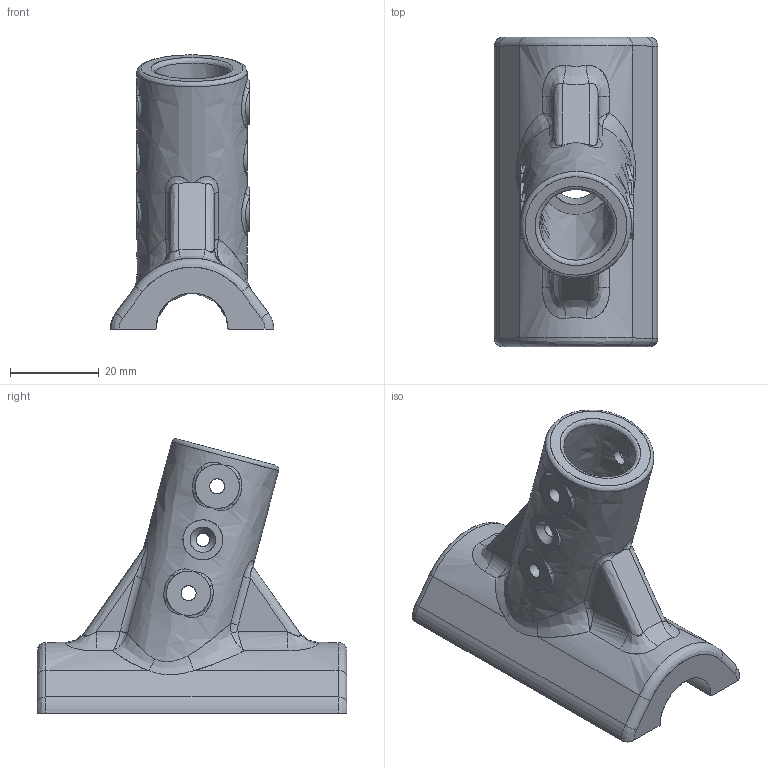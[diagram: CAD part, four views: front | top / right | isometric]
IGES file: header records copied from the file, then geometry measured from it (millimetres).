
Global section: file name: C:\Users\gehrichcr\Documents\1 Drive Backup\Practice\Inspire\V1.5\IGES\Boom Outer Joint 2 15Deg R.igs; native system: NX V8.5; preprocessor: SIEMENS PLM Software NX 8.5; date: 20150615.140318; units: millimetre
Bounding box: 37 x 70 x 61.98 mm (x, y, z)
Surface area: 15294.9 mm2 (no closed solid volume)
Topology: 0 solids, 0 shells, 164 faces, 1195 edges, 1133 vertices
Faces by surface type: bspline 164
